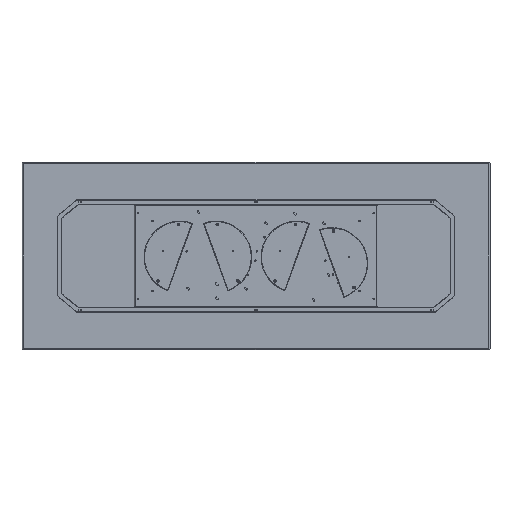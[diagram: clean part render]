
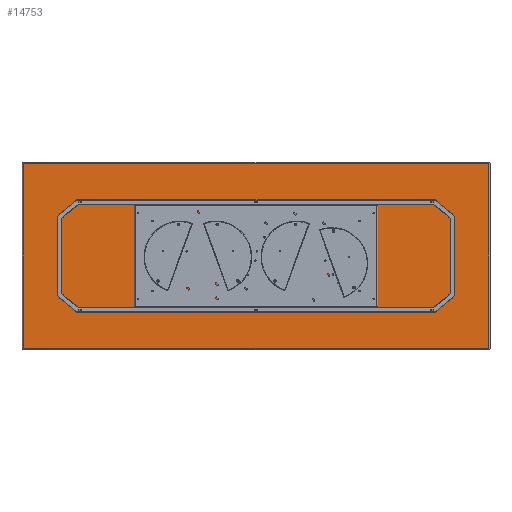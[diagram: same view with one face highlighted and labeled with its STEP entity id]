
A CAD part, front view. The second image highlights one B-rep face of the part: STEP entity #14753.
In plain terms, the highlighted planar face has unit normal (0, -1, 0).
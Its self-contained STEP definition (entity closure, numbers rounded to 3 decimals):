
#270 = VECTOR ( 'NONE', #1028, 1000. ) ;
#958 = EDGE_CURVE ( 'NONE', #9207, #6860, #19450, .T. ) ;
#1028 = DIRECTION ( 'NONE',  ( 1., 0., 0. ) ) ;
#2194 = ORIENTED_EDGE ( 'NONE', *, *, #8223, .T. ) ;
#2915 = DIRECTION ( 'NONE',  ( -1., 0., 0. ) ) ;
#3376 = CARTESIAN_POINT ( 'NONE',  ( 1492., 0., -592. ) ) ;
#4401 = LINE ( 'NONE', #19658, #13163 ) ;
#4689 = EDGE_LOOP ( 'NONE', ( #9004, #7661, #2194, #18607 ) ) ;
#6860 = VERTEX_POINT ( 'NONE', #9600 ) ;
#7487 = CARTESIAN_POINT ( 'NONE',  ( -1492., 0., 592. ) ) ;
#7548 = DIRECTION ( 'NONE',  ( 0., 0., -1. ) ) ;
#7661 = ORIENTED_EDGE ( 'NONE', *, *, #12051, .T. ) ;
#7750 = LINE ( 'NONE', #19695, #18353 ) ;
#8223 = EDGE_CURVE ( 'NONE', #18141, #16376, #7750, .T. ) ;
#8537 = CARTESIAN_POINT ( 'NONE',  ( 0., 0., -592. ) ) ;
#8568 = EDGE_CURVE ( 'NONE', #16376, #9207, #11908, .T. ) ;
#9004 = ORIENTED_EDGE ( 'NONE', *, *, #958, .T. ) ;
#9207 = VERTEX_POINT ( 'NONE', #3376 ) ;
#9600 = CARTESIAN_POINT ( 'NONE',  ( 1492., 0., 592. ) ) ;
#10371 = CARTESIAN_POINT ( 'NONE',  ( 0., 0., 0. ) ) ;
#11908 = LINE ( 'NONE', #8537, #270 ) ;
#12051 = EDGE_CURVE ( 'NONE', #6860, #18141, #4401, .T. ) ;
#13163 = VECTOR ( 'NONE', #2915, 1000. ) ;
#13520 = VECTOR ( 'NONE', #17949, 1000. ) ;
#13556 = DIRECTION ( 'NONE',  ( 0., 0., 1. ) ) ;
#14413 = AXIS2_PLACEMENT_3D ( 'NONE', #10371, #19636, #13556 ) ;
#14753 = ADVANCED_FACE ( 'NONE', ( #16842 ), #18326, .F. ) ;
#15953 = CARTESIAN_POINT ( 'NONE',  ( -1492., 0., -592. ) ) ;
#16376 = VERTEX_POINT ( 'NONE', #15953 ) ;
#16842 = FACE_OUTER_BOUND ( 'NONE', #4689, .T. ) ;
#17461 = CARTESIAN_POINT ( 'NONE',  ( 1492., 0., 0. ) ) ;
#17949 = DIRECTION ( 'NONE',  ( 0., 0., 1. ) ) ;
#18141 = VERTEX_POINT ( 'NONE', #7487 ) ;
#18326 = PLANE ( 'NONE',  #14413 ) ;
#18353 = VECTOR ( 'NONE', #7548, 1000. ) ;
#18607 = ORIENTED_EDGE ( 'NONE', *, *, #8568, .T. ) ;
#19450 = LINE ( 'NONE', #17461, #13520 ) ;
#19636 = DIRECTION ( 'NONE',  ( 0., 1., 0. ) ) ;
#19658 = CARTESIAN_POINT ( 'NONE',  ( 0., 0., 592. ) ) ;
#19695 = CARTESIAN_POINT ( 'NONE',  ( -1492., 0., 0. ) ) ;
